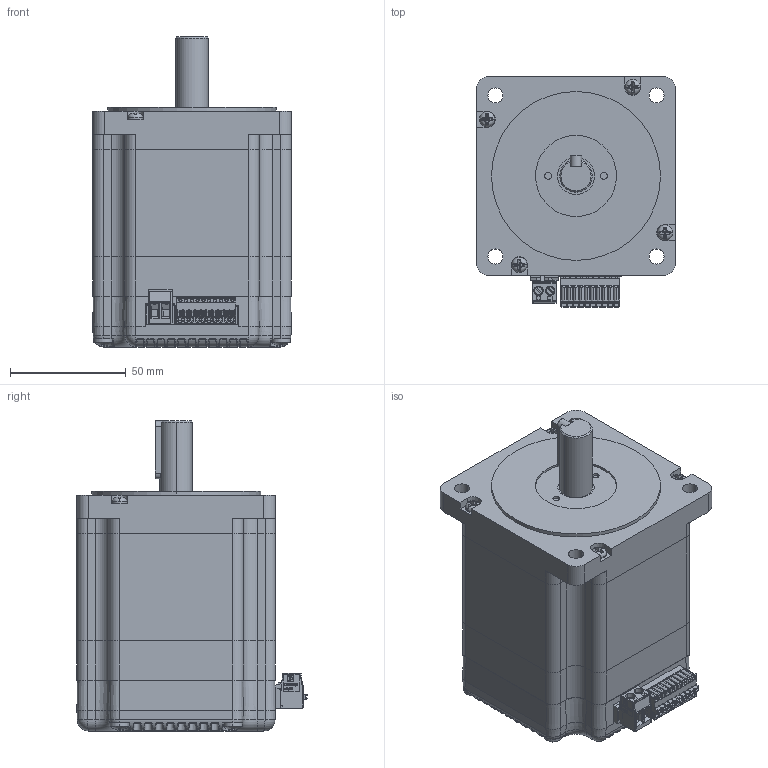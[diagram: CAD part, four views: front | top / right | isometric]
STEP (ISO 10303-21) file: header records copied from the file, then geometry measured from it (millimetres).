
FILE_DESCRIPTION (( 'STEP AP214' ), '1' );
FILE_NAME ('IC86E45.STEP', '2022-11-10T02:11:36', ( '' ), ( '' ), 'SwSTEP 2.0', 'SolidWorks 2022', '' );
FILE_SCHEMA (( 'AUTOMOTIVE_DESIGN' ));
Length unit declared in the file: millimetre
Products named in the file (6): IC86电机_装配模型使用; 5.08x2p-GR-脣芛; IC86驱动器2; 傷赽脣芛; IC86E45; M4_PreviewCfg
Assembly tree (8 placements, depth 2):
  IC86E45
    IC86电机_装配模型使用
    IC86驱动器2
    5.08x2p-GR-脣芛
    傷赽脣芛
    M4_PreviewCfg  x4
Bounding box: 85.8 x 99.5 x 134 mm (x, y, z)
Volume: 603714.8 mm3; surface area: 110278.7 mm2
Topology: 12 solids, 12 shells, 5794 faces, 15705 edges, 10089 vertices
Faces by surface type: plane 3614, cylinder 1305, bspline 467, cone 215, torus 127, sphere 66
Entity records: 259509 total; most frequent: CARTESIAN_POINT 64991, ORIENTED_EDGE 30910, DIRECTION 27212, EDGE_CURVE 15455, VECTOR 10896, LINE 10896, VERTEX_POINT 9957, AXIS2_PLACEMENT_3D 8158
